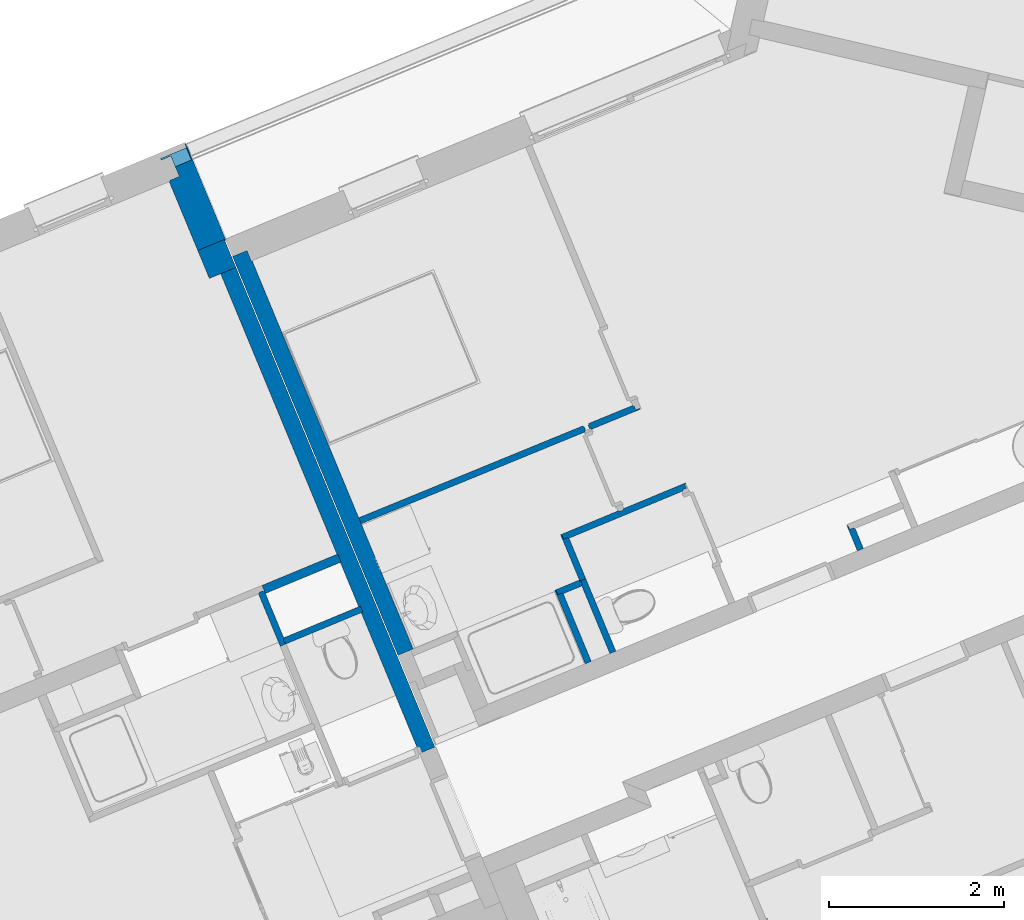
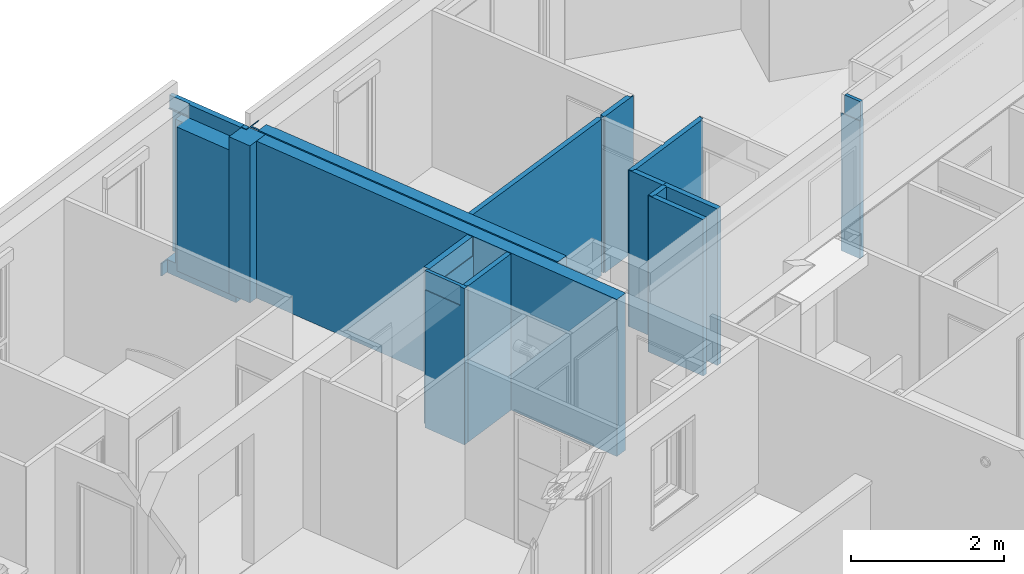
# One storey, part 38 of 91: 14 walls.
"""IFC2X3 building model written with IfcOpenShell, lengths in metres."""

from ifc_helpers import new_model, entity, si_unit, converted_unit, derived_unit, money_unit, direction, frame, origin_with_axes, place, context, subcontext, project, spatial, faceted_brep, material, material_list, type_object, element, save


model = new_model("IFC2X3")

# Units and contexts
model_context = context("Model", 3, precision=1e-05, world=origin_with_axes(), true_north=direction((0.0, 1.0)))
body_context = subcontext(model_context, "Body", "Model", "MODEL_VIEW")
ifc_project = project(units=[si_unit("LENGTHUNIT", "METRE"), si_unit("AREAUNIT", "SQUARE_METRE"), si_unit("VOLUMEUNIT", "CUBIC_METRE"), converted_unit("PLANEANGLEUNIT", "DEGREE", entity("IfcPlaneAngleMeasure", 0.0174532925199), si_unit("PLANEANGLEUNIT", "RADIAN"), dimensions=[0, 0, 0, 0, 0, 0, 0]), si_unit("SOLIDANGLEUNIT", "STERADIAN"), money_unit("EUR"), converted_unit("TIMEUNIT", "Year", entity("IfcTimeMeasure", 31556926.0), si_unit("TIMEUNIT", "SECOND"), dimensions=[0, 0, 1, 0, 0, 0, 0]), si_unit("MASSUNIT", "GRAM", prefix="KILO"), si_unit("THERMODYNAMICTEMPERATUREUNIT", "DEGREE_CELSIUS"), si_unit("LUMINOUSINTENSITYUNIT", "LUMEN"), si_unit("ENERGYUNIT", "JOULE", prefix="MEGA"), derived_unit("THERMALCONDUCTANCEUNIT", [(si_unit("POWERUNIT", "WATT"), 1), (si_unit("LENGTHUNIT", "METRE"), -1), (si_unit("THERMODYNAMICTEMPERATUREUNIT", "KELVIN"), -1)]), derived_unit("SPECIFICHEATCAPACITYUNIT", [(si_unit("ENERGYUNIT", "JOULE"), 1), (si_unit("MASSUNIT", "GRAM", prefix="KILO"), -1), (si_unit("THERMODYNAMICTEMPERATUREUNIT", "KELVIN"), -1)]), derived_unit("MASSDENSITYUNIT", [(si_unit("MASSUNIT", "GRAM", prefix="KILO"), 1), (si_unit("VOLUMEUNIT", "CUBIC_METRE"), -1)])], contexts=[model_context])

# Site, building, storey
site_placement = place(None, origin_with_axes())
site = spatial("IfcSite", under=ifc_project, at=site_placement, Name="Site", CompositionType="ELEMENT")
building_placement = place(site_placement, origin_with_axes())
building = spatial("IfcBuilding", under=site, at=building_placement, Name="Bâtiment", CompositionType="ELEMENT")
storey_placement = place(building_placement, frame((0.0, 0.0, 5.44), z_axis=(0.0, 0.0, 1.0), x_axis=(1.0, 0.0, 0.0)))
storey = spatial("IfcBuildingStorey", under=building, at=storey_placement, Name="R+2", CompositionType="ELEMENT", Elevation=5.44)

# Walls
ifc_material_1 = material(Name="Finition int - Plaque de plâtre")
ifc_material_2 = material(Name="Isolation - Polystyrène extrudé")
ifc_material_3 = material(Name="Bloc ELITHERM")
ifc_material_4 = material(Name="Isolation - Polystyrène expansé")
ifc_material_5 = material(Name="Mortier")
ifc_material_6 = material(Name="Béton cellulaire")
ifc_material_7 = material(Name="Finition ext - Crépis")
ifc_material_list_1 = material_list([ifc_material_1, ifc_material_2, ifc_material_3, ifc_material_4, ifc_material_5, ifc_material_6, ifc_material_7])
wall_type_1 = type_object("IfcWallType", Name="Mur ALKERN + planelle 21 345 x 2720", PredefinedType="USERDEFINED")
wall_1_placement = place(storey_placement, frame((-25.5579248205, -15.1553812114, -0.21), z_axis=(0.0, 0.0, 1.0), x_axis=(-0.383112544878, 0.923701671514, 0.0)))
element("IfcWall", 1, at=wall_1_placement, inside=storey, type_object=wall_type_1, material=ifc_material_list_1, Name="Mue bloc ALKERN isolé", ObjectType="SOLIDWALL", context=body_context, shape_type="Brep", body=[
    faceted_brep([(-0.0149999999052, 0.34499998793, 0.21), (-0.0149999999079, 0.335000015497, 0.21), (-0.0830000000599, 0.335000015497, 0.21), (-0.0830000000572, 0.34499998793, 0.21), (0.855000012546, 0.335000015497, 0.21), (0.855000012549, 0.34499998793, 0.21), (0.855000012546, 0.335000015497, 2.50999999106), (-0.344999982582, 0.335000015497, 2.51), (-0.344999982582, 0.335000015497, 0.209999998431), (-0.344999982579, 0.34499998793, 0.209999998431), (-0.344999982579, 0.34499998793, 2.51), (0.855000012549, 0.34499998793, 2.50999999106)], [[[0, 1, 2, 3]], [[4, 1, 0, 5]], [[1, 4, 6, 7, 8, 2]], [[9, 3, 2, 8]], [[5, 0, 3, 9, 10, 11]], [[4, 5, 11, 6]], [[7, 6, 11, 10]], [[7, 10, 9, 8]]]),
    faceted_brep([(1.11700000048, 0.335000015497, 0.21), (1.11700000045, 0.214999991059, 0.21), (1.13700000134, 0.215000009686, 0.21), (1.13700000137, 0.335000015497, 0.21), (1.11700000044, 0.214999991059, 0.01), (1.1170000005, 0.335000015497, 0.01), (1.13700000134, 0.215000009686, 0.00999999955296), (1.13700000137, 0.335000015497, 0.00999999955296)], [[[0, 1, 2, 3]], [[4, 1, 0, 5]], [[1, 4, 6, 2]], [[7, 3, 2, 6]], [[5, 0, 3, 7]], [[4, 5, 7, 6]]]),
    faceted_brep([(-0.0149999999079, 0.335000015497, 0.21), (-0.0149999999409, 0.214999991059, 0.21), (-0.0830000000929, 0.215000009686, 0.21), (-0.0830000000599, 0.335000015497, 0.21), (0.864999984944, 0.214999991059, 0.21), (0.864999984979, 0.335000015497, 0.21), (0.864999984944, 0.215000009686, 2.50999999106), (-0.344999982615, 0.215000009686, 2.51), (-0.344999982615, 0.215000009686, 0.209999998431), (-0.344999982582, 0.335000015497, 0.209999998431), (-0.344999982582, 0.335000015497, 2.51), (0.864999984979, 0.335000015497, 2.50999999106)], [[[0, 1, 2, 3]], [[4, 1, 0, 5]], [[1, 4, 6, 7, 8, 2]], [[9, 3, 2, 8]], [[5, 0, 3, 9, 10, 11]], [[4, 5, 11, 6]], [[7, 6, 11, 10]], [[7, 10, 9, 8]]]),
    faceted_brep([(-0.0149999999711, 0.105000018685, 0.21), (-0.0149999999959, 0.015, 0.21), (-0.0149999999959, 0.015, 2.50999999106), (-0.0149999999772, 0.0829999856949, 2.50999999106), (-0.0149999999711, 0.105000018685, 2.50999999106), (-0.0149999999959, 0.015, 0.00999999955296), (-0.0149999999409, 0.214999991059, 0.21), (-0.0149999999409, 0.214999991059, 0.00999999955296), (-0.0149999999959, 0.015, 0.0), (1.11700000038, 0.015, 0.0), (1.11700000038, 0.015, 0.01), (1.13700000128, 0.015, 0.00999999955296), (1.13700000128, 0.015, 0.21), (0.985000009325, 0.015, 0.21), (0.985000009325, 0.015, 2.50999999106), (0.985000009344, 0.0829999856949, 2.50999999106), (0.985000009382, 0.214999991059, 2.50999999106), (-0.344999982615, 0.214999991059, 2.50999999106), (-0.344999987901, 0.105000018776, 2.50999999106), (-0.335000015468, 0.105000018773, 2.50999999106), (-0.21499999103, 0.10500001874, 2.50999999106), (-0.0629999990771, 0.105000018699, 0.21), (-0.21499999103, 0.10500001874, 0.21), (-0.0830000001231, 0.105000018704, 0.21), (-0.0629999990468, 0.214999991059, 0.21), (-0.0830000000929, 0.214999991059, 0.21), (-0.344999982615, 0.214999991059, 0.209999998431), (0.985000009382, 0.214999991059, 0.21), (1.13700000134, 0.214999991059, 0.21), (1.13700000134, 0.214999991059, 0.00999999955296), (1.11700000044, 0.214999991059, 0.01), (1.11700000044, 0.214999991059, 0.0), (-0.0149999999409, 0.214999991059, 0.0), (-0.344999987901, 0.105000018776, 0.21), (-0.335000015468, 0.105000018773, 0.21)], [[[0, 1, 2, 3, 4]], [[5, 1, 0, 6, 7]], [[1, 5, 8, 9, 10, 11, 12, 13, 14, 2]], [[3, 2, 14, 15]], [[4, 3, 15, 16, 17, 18, 19, 20]], [[21, 0, 4, 20, 22, 23]], [[0, 21, 24, 6]], [[6, 24, 25, 26, 17, 16, 27, 28, 29, 30, 31, 32, 7]], [[5, 7, 32, 8]], [[8, 32, 31, 9]], [[10, 9, 31, 30]], [[29, 11, 10, 30]], [[28, 12, 11, 29]], [[12, 28, 27, 13]], [[15, 14, 13, 27, 16]], [[33, 18, 17, 26]], [[34, 19, 18, 33]], [[22, 20, 19, 34]], [[25, 23, 22, 34, 33, 26]], [[24, 21, 23, 25]]]),
    faceted_brep([(0.0, 0.083000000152, 2.71999999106), (0.0, 0.0630000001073, 2.71999999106), (0.864999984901, 0.0630000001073, 2.72), (0.864999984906, 0.083000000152, 2.72), (0.0, 0.0630000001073, 2.51999999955), (0.0, 0.083000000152, 2.51999999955), (0.864999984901, 0.0630000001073, 2.51999999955), (0.864999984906, 0.083000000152, 2.51999999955)], [[[0, 1, 2, 3]], [[4, 1, 0, 5]], [[1, 4, 6, 2]], [[3, 2, 6, 7]], [[5, 0, 3, 7]], [[4, 5, 7, 6]]]),
    faceted_brep([(-0.344999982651, 0.083, 2.52), (-0.34499998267, 0.015, 2.52), (1.19999999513, 0.015, 2.52), (1.19999999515, 0.083, 2.52), (-0.34499998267, 0.015, 2.51), (-0.344999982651, 0.083, 2.51), (1.19999999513, 0.015, 2.51), (1.19999999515, 0.083, 2.51)], [[[0, 1, 2, 3]], [[4, 1, 0, 5]], [[1, 4, 6, 2]], [[3, 2, 6, 7]], [[5, 0, 3, 7]], [[4, 5, 7, 6]]]),
    faceted_brep([(-0.344999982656, 0.0629999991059, 2.72000000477), (-0.34499998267, 0.015, 2.72000000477), (1.19999999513, 0.015, 2.72000000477), (1.19999999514, 0.0629999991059, 2.72000000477), (-0.34499998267, 0.015, 2.51999999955), (-0.344999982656, 0.0629999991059, 2.51999999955), (1.19999999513, 0.015, 2.51999999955), (1.19999999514, 0.0629999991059, 2.51999999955)], [[[0, 1, 2, 3]], [[4, 1, 0, 5]], [[1, 4, 6, 2]], [[3, 2, 6, 7]], [[5, 0, 3, 7]], [[4, 5, 7, 6]]]),
    faceted_brep([(1.19999999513, 0.0149999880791, 2.72000000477), (0.0, 0.0149999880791, 2.71999999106), (0.0, 0.0, 2.71999999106), (1.19999999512, 0.0, 2.72000000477), (0.0, 0.0149999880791, 0.21), (1.20000000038, 0.0149999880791, 2.50999999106), (1.1850000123, 0.0149999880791, 2.50999999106), (1.18500000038, 0.0149999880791, 0.21), (1.13700000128, 0.0149999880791, 0.21), (1.13700000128, 0.0149999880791, 0.00999999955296), (1.11700000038, 0.0149999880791, 0.01), (1.11700000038, 0.0149999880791, 0.0), (-0.0149999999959, 0.0149999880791, 0.0), (-0.0149999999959, 0.0149999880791, 0.21), (0.0, 0.0, 0.21), (-0.015, 0.0, 0.21), (-0.015, 0.0, 0.0), (1.11700000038, 0.0, 0.0), (1.11700000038, 0.0, 0.01), (1.13700000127, 0.0, 0.00999999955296), (1.13700000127, 0.0, 0.21), (1.18500000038, 0.0, 0.21), (1.1850000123, 0.0, 2.50999999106), (1.20000000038, 0.0, 2.50999999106)], [[[0, 1, 2, 3]], [[4, 1, 0, 5, 6, 7, 8, 9, 10, 11, 12, 13]], [[14, 2, 1, 4]], [[3, 2, 14, 15, 16, 17, 18, 19, 20, 21, 22, 23]], [[3, 23, 5, 0]], [[5, 23, 22, 6]], [[22, 21, 7, 6]], [[7, 21, 20, 8]], [[8, 20, 19, 9]], [[10, 9, 19, 18]], [[10, 18, 17, 11]], [[17, 16, 12, 11]], [[16, 15, 13, 12]], [[4, 13, 15, 14]]]),
])
ifc_material_8 = material(Name="Isolation - Laine de roche")
ifc_material_list_2 = material_list([ifc_material_1, ifc_material_8, ifc_material_1])
wall_type_2 = type_object("IfcWallType", Name="3 - Cloison 72mm Placostil 74", PredefinedType="USERDEFINED")
wall_2_placement = place(storey_placement, frame((-21.6551757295, -18.5120342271, 0.0), z_axis=(0.0, 0.0, 1.0), x_axis=(0.383112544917, -0.923701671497, 0.0)))
element("IfcWall", 2, at=wall_2_placement, inside=storey, type_object=wall_type_2, material=ifc_material_list_2, Name="Cloison Placostil 72/48", ObjectType="PARTITIONING", context=body_context, shape_type="Brep", body=[
    faceted_brep([(0.0740000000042, -0.013, 2.5), (0.573999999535, -0.013, 2.5), (0.573999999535, 0.0, 2.5), (0.074, 0.0, 2.5), (0.0740000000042, -0.013, 0.0), (0.573999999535, -0.013, 0.0), (0.573999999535, 0.0, 0.0), (0.074, 0.0, 0.0)], [[[0, 1, 2, 3]], [[4, 5, 1, 0]], [[2, 1, 5, 6]], [[3, 2, 6, 7]], [[4, 0, 3, 7]], [[7, 6, 5, 4]]]),
    faceted_brep([(0.0610000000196, -0.061, 2.5), (0.573999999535, -0.061, 2.5), (0.573999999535, -0.013, 2.5), (0.0610000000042, -0.013, 2.5), (0.0610000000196, -0.061, 0.0), (0.573999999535, -0.061, 0.0), (0.573999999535, -0.013, 0.0), (0.0610000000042, -0.013, 0.0)], [[[0, 1, 2, 3]], [[4, 5, 1, 0]], [[2, 1, 5, 6]], [[3, 2, 6, 7]], [[4, 0, 3, 7]], [[7, 6, 5, 4]]]),
    faceted_brep([(0.573999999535, -0.074, 2.5), (0.573999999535, -0.061, 2.5), (0.0130000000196, -0.061, 2.5), (0.0130000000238, -0.074, 2.5), (0.573999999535, -0.074, 0.0), (0.573999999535, -0.061, 0.0), (0.0130000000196, -0.061, 0.0), (0.0130000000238, -0.074, 0.0)], [[[0, 1, 2, 3]], [[1, 0, 4, 5]], [[1, 5, 6, 2]], [[7, 3, 2, 6]], [[4, 0, 3, 7]], [[5, 4, 7, 6]]]),
])
wall_3_placement = place(storey_placement, frame((-21.6551757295, -18.5120342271, 0.0), z_axis=(0.0, 0.0, 1.0), x_axis=(0.923701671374, 0.383112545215, 0.0)))
element("IfcWall", 3, at=wall_3_placement, inside=storey, type_object=wall_type_2, material=ifc_material_list_2, Name="Cloison Placostil 72/48", ObjectType="PARTITIONING", context=body_context, shape_type="Brep", body=[
    faceted_brep([(1.47399999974, -0.013, 2.5), (1.47399999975, 0.0, 2.5), (0.697460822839, 0.0, 2.5), (0.697460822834, -0.013, 2.5), (1.47399999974, -0.013, 0.0), (1.47399999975, 0.0, 0.0), (0.697460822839, 0.0, 0.0), (0.697460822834, -0.013, 0.0)], [[[0, 1, 2, 3]], [[1, 0, 4, 5]], [[1, 5, 6, 2]], [[7, 3, 2, 6]], [[4, 0, 3, 7]], [[5, 4, 7, 6]]]),
    faceted_brep([(0.649460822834, -0.013, 2.5), (0.649460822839, 0.0, 2.5), (-0.074, 0.0, 2.5), (-0.0740000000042, -0.013, 2.5), (0.649460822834, -0.013, 0.0), (0.649460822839, 0.0, 0.0), (-0.074, 0.0, 0.0), (-0.0740000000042, -0.013, 0.0)], [[[0, 1, 2, 3]], [[1, 0, 4, 5]], [[1, 5, 6, 2]], [[7, 3, 2, 6]], [[4, 0, 3, 7]], [[5, 4, 7, 6]]]),
    faceted_brep([(1.46099999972, -0.061, 2.5), (1.46099999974, -0.013, 2.5), (-0.0610000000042, -0.013, 2.5), (-0.0610000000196, -0.061, 2.5), (1.46099999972, -0.061, 0.0), (1.46099999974, -0.013, 0.0), (-0.0610000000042, -0.013, 0.0), (-0.0610000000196, -0.061, 0.0)], [[[0, 1, 2, 3]], [[1, 0, 4, 5]], [[1, 5, 6, 2]], [[7, 3, 2, 6]], [[4, 0, 3, 7]], [[5, 4, 7, 6]]]),
    faceted_brep([(1.41299999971, -0.074, 2.5), (1.41299999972, -0.061, 2.5), (-0.0130000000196, -0.061, 2.5), (-0.0130000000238, -0.074, 2.5), (1.41299999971, -0.074, 0.0), (1.41299999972, -0.061, 0.0), (-0.0130000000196, -0.061, 0.0), (-0.0130000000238, -0.074, 0.0)], [[[0, 1, 2, 3]], [[1, 0, 4, 5]], [[1, 5, 6, 2]], [[7, 3, 2, 6]], [[4, 0, 3, 7]], [[5, 4, 7, 6]]]),
])
wall_4_placement = place(storey_placement, frame((-20.8008531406, -17.1002798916, 0.0), z_axis=(0.0, 0.0, 1.0), x_axis=(-0.925270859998, -0.379307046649, 0.0)))
element("IfcWall", 4, at=wall_4_placement, inside=storey, type_object=wall_type_2, material=ifc_material_list_2, Name="Cloison Placostil 72/48", ObjectType="PARTITIONING", context=body_context, shape_type="Brep", body=[
    faceted_brep([(0.619597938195, -0.013, 2.5), (0.61954442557, 0.0, 2.5), (0.013000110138, 0.0, 2.5), (0.0130536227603, -0.013, 2.5), (0.619597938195, -0.013, 0.0), (0.61954442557, 0.0, 0.0), (0.013000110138, 0.0, 0.0), (0.0130536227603, -0.013, 0.0)], [[[0, 1, 2, 3]], [[1, 0, 4, 5]], [[1, 5, 6, 2]], [[7, 3, 2, 6]], [[4, 0, 3, 7]], [[5, 4, 7, 6]]]),
    faceted_brep([(0.693598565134, -0.013, 2.5), (3.46402934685, -0.013, 2.5), (3.46402934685, 0.0, 2.5), (0.69354505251, 0.0, 2.5), (0.693598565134, -0.013, 0.0), (3.46402934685, -0.013, 0.0), (3.46402934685, 0.0, 0.0), (0.69354505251, 0.0, 0.0)], [[[0, 1, 2, 3]], [[4, 5, 1, 0]], [[2, 1, 5, 6]], [[3, 2, 6, 7]], [[4, 0, 3, 7]], [[7, 6, 5, 4]]]),
    faceted_brep([(0.632795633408, -0.061, 2.5), (0.632598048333, -0.013, 2.5), (0.0610540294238, -0.013, 2.5), (0.0612516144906, -0.061, 2.5), (0.632795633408, -0.061, 0.0), (0.632598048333, -0.013, 0.0), (0.0610540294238, -0.013, 0.0), (0.0612516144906, -0.061, 0.0)], [[[0, 1, 2, 3]], [[1, 0, 4, 5]], [[1, 5, 6, 2]], [[7, 3, 2, 6]], [[4, 0, 3, 7]], [[5, 4, 7, 6]]]),
    faceted_brep([(0.680796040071, -0.061, 2.5), (3.46402934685, -0.061, 2.5), (3.46402934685, -0.013, 2.5), (0.680598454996, -0.013, 2.5), (0.680796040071, -0.061, 0.0), (3.46402934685, -0.061, 0.0), (3.46402934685, -0.013, 0.0), (0.680598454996, -0.013, 0.0)], [[[0, 1, 2, 3]], [[4, 5, 1, 0]], [[2, 1, 5, 6]], [[3, 2, 6, 7]], [[4, 0, 3, 7]], [[7, 6, 5, 4]]]),
    faceted_brep([(0.619849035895, -0.074, 2.5), (0.61979552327, -0.061, 2.5), (0.0742517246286, -0.061, 2.5), (0.0743052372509, -0.074, 2.5), (0.619849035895, -0.074, 0.0), (0.61979552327, -0.061, 0.0), (0.0742517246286, -0.061, 0.0), (0.0743052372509, -0.074, 0.0)], [[[0, 1, 2, 3]], [[1, 0, 4, 5]], [[1, 5, 6, 2]], [[7, 3, 2, 6]], [[4, 0, 3, 7]], [[5, 4, 7, 6]]]),
    faceted_brep([(0.693849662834, -0.074, 2.5), (3.46402934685, -0.074, 2.5), (3.46402934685, -0.061, 2.5), (0.69379615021, -0.061, 2.5), (0.693849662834, -0.074, 0.0), (3.46402934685, -0.074, 0.0), (3.46402934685, -0.061, 0.0), (0.69379615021, -0.061, 0.0)], [[[0, 1, 2, 3]], [[4, 5, 1, 0]], [[2, 1, 5, 6]], [[3, 2, 6, 7]], [[4, 0, 3, 7]], [[7, 6, 5, 4]]]),
])
wall_5_placement = place(storey_placement, frame((-18.4490334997, -18.4272521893, 0.0), z_axis=(0.0, 0.0, 1.0), x_axis=(0.383112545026, -0.923701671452, 0.0)))
element("IfcWall", 5, at=wall_5_placement, inside=storey, type_object=wall_type_2, material=ifc_material_list_2, Name="Cloison Placostil 72/48", ObjectType="PARTITIONING", context=body_context, shape_type="Brep", body=[
    faceted_brep([(0.074, 0.074, 2.2), (0.324000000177, 0.074, 2.2), (0.324, 0.074, 0.0), (0.074, 0.074, 0.0), (0.324000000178, 0.061, 2.2), (0.074, 0.061, 2.2), (0.324, 0.061, 0.0), (0.074, 0.061, 0.0)], [[[0, 1, 2, 3]], [[4, 1, 0, 5]], [[1, 4, 6, 2]], [[3, 2, 6, 7]], [[5, 0, 3, 7]], [[4, 5, 7, 6]]]),
    faceted_brep([(0.061, 0.061, 0.0), (0.324, 0.061, 0.0), (0.324, 0.013, 0.0), (0.061, 0.013, 0.0), (0.061, 0.061, 2.5), (0.324, 0.061, 2.5), (0.324, 0.013, 2.5), (0.061, 0.013, 2.5)], [[[0, 1, 2, 3]], [[4, 5, 1, 0]], [[2, 1, 5, 6]], [[3, 2, 6, 7]], [[4, 0, 3, 7]], [[7, 6, 5, 4]]]),
    faceted_brep([(0.013, 0.013, 2.2), (0.324000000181, 0.013, 2.2), (0.324, 0.013, 0.0), (0.013, 0.013, 0.0), (0.324000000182, 0.0, 2.2), (0.013, 0.0, 2.2), (0.324, 0.0, 0.0), (0.013, 0.0, 0.0)], [[[0, 1, 2, 3]], [[4, 1, 0, 5]], [[1, 4, 6, 2]], [[3, 2, 6, 7]], [[5, 0, 3, 7]], [[4, 5, 7, 6]]]),
])
wall_type_3 = type_object("IfcWallType", Name="3 - Cloison Gaine Technique 72mm 74", PredefinedType="USERDEFINED")
wall_6_placement = place(storey_placement, frame((-24.9331172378, -19.8175512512, 0.0), z_axis=(0.0, 0.0, 1.0), x_axis=(-0.383112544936, 0.92370167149, 0.0)))
element("IfcWall", 6, at=wall_6_placement, inside=storey, type_object=wall_type_3, material=ifc_material_list_2, Name="Cloison Placostil 72/48", ObjectType="PARTITIONING", context=body_context, shape_type="Brep", body=[
    faceted_brep([(0.649999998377, -0.013, 2.2), (0.0740000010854, -0.013, 2.2), (0.0740000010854, -0.013, 2.5), (0.0, -0.013, 2.5), (0.0, -0.013, 0.0), (0.650000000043, -0.013, 0.0), (0.649999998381, 0.0, 2.2), (0.0740000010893, 0.0, 2.2), (0.0740000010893, 0.0, 2.5), (0.0, 0.0, 2.5), (0.0, 0.0, 0.0), (0.650000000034, 0.0, 0.0)], [[[0, 1, 2, 3, 4, 5]], [[1, 0, 6, 7]], [[8, 2, 1, 7]], [[2, 8, 9, 3]], [[4, 3, 9, 10]], [[11, 5, 4, 10]], [[6, 0, 5, 11]], [[7, 6, 11, 10, 9, 8]]]),
    faceted_brep([(0.663000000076, -0.061, 2.5), (0.663000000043, -0.013, 2.5), (0.0, -0.013, 2.5), (0.0, -0.061, 2.5), (0.663000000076, -0.061, 0.0), (0.663000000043, -0.013, 0.0), (0.0, -0.013, 0.0), (0.0, -0.061, 0.0)], [[[0, 1, 2, 3]], [[1, 0, 4, 5]], [[1, 5, 6, 2]], [[7, 3, 2, 6]], [[4, 0, 3, 7]], [[5, 4, 7, 6]]]),
    faceted_brep([(0.0130000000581, -0.074, 2.5), (0.0130000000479, -0.061, 2.5), (0.0, -0.061, 2.5), (0.0, -0.074, 2.5), (0.0130000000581, -0.074, 0.0), (0.0130000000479, -0.061, 0.0), (0.0, -0.061, 0.0), (0.0, -0.074, 0.0)], [[[0, 1, 2, 3]], [[1, 0, 4, 5]], [[1, 5, 6, 2]], [[7, 3, 2, 6]], [[4, 0, 3, 7]], [[5, 4, 7, 6]]]),
    faceted_brep([(0.649999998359, -0.074, 2.2), (0.0740000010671, -0.074, 2.2), (0.0740000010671, -0.074, 2.5), (0.0610000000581, -0.074, 2.5), (0.0610000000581, -0.074, 0.0), (0.650000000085, -0.074, 0.0), (0.649999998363, -0.061, 2.2), (0.074000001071, -0.061, 2.2), (0.074000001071, -0.061, 2.5), (0.0610000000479, -0.061, 2.5), (0.0610000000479, -0.061, 0.0), (0.650000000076, -0.061, 0.0)], [[[0, 1, 2, 3, 4, 5]], [[1, 0, 6, 7]], [[8, 2, 1, 7]], [[2, 8, 9, 3]], [[4, 3, 9, 10]], [[11, 5, 4, 10]], [[6, 0, 5, 11]], [[7, 6, 11, 10, 9, 8]]]),
])
wall_7_placement = place(storey_placement, frame((-21.7899938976, -19.1752900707, 0.0), z_axis=(0.0, 0.0, 1.0), x_axis=(0.923701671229, 0.383112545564, 0.0)))
element("IfcWall", 7, at=wall_7_placement, inside=storey, type_object=wall_type_3, material=ifc_material_list_2, Name="Cloison Placostil 72/48", ObjectType="PARTITIONING", context=body_context, shape_type="Brep", body=[
    faceted_brep([(0.304633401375, -0.013, 2.5), (0.304633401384, 0.0, 2.5), (0.0, 0.0, 2.5), (0.0, -0.013, 2.5), (0.304633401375, -0.013, 0.0), (0.304633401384, 0.0, 0.0), (0.0, 0.0, 0.0), (0.0, -0.013, 0.0)], [[[0, 1, 2, 3]], [[1, 0, 4, 5]], [[1, 5, 6, 2]], [[7, 3, 2, 6]], [[4, 0, 3, 7]], [[5, 4, 7, 6]]]),
    faceted_brep([(0.317633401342, -0.061, 2.5), (0.317633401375, -0.013, 2.5), (0.013, -0.013, 2.5), (0.013, -0.061, 2.5), (0.317633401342, -0.061, 0.0), (0.317633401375, -0.013, 0.0), (0.013, -0.013, 0.0), (0.013, -0.061, 0.0)], [[[0, 1, 2, 3]], [[1, 0, 4, 5]], [[1, 5, 6, 2]], [[7, 3, 2, 6]], [[4, 0, 3, 7]], [[5, 4, 7, 6]]]),
    faceted_brep([(0.304633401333, -0.074, 2.5), (0.304633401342, -0.061, 2.5), (0.061, -0.061, 2.5), (0.061, -0.074, 2.5), (0.304633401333, -0.074, 0.0), (0.304633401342, -0.061, 0.0), (0.061, -0.061, 0.0), (0.061, -0.074, 0.0)], [[[0, 1, 2, 3]], [[1, 0, 4, 5]], [[1, 5, 6, 2]], [[7, 3, 2, 6]], [[4, 0, 3, 7]], [[5, 4, 7, 6]]]),
])
wall_8_placement = place(storey_placement, frame((-24.0155970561, -19.3568900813, 0.0), z_axis=(0.0, 0.0, 1.0), x_axis=(-0.923701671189, -0.383112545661, 0.0)))
element("IfcWall", 8, at=wall_8_placement, inside=storey, type_object=wall_type_3, material=ifc_material_list_2, Name="Cloison Placostil 72/48", ObjectType="PARTITIONING", context=body_context, shape_type="Brep", body=[
    faceted_brep([(0.949999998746, 0.074, 0.0), (0.949999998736, 0.061, 0.0), (0.0, 0.061, 0.0), (0.0, 0.074, 0.0), (0.949999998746, 0.074, 2.5), (0.949999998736, 0.061, 2.5), (0.0, 0.061, 2.5), (0.0, 0.074, 2.5)], [[[0, 1, 2, 3]], [[1, 0, 4, 5]], [[1, 5, 6, 2]], [[7, 3, 2, 6]], [[4, 0, 3, 7]], [[5, 4, 7, 6]]]),
    faceted_brep([(0.962999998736, 0.061, 0.0), (0.962999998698, 0.013, 0.0), (0.0, 0.013, 0.0), (0.0, 0.061, 0.0), (0.962999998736, 0.061, 2.5), (0.962999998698, 0.013, 2.5), (0.0, 0.013, 2.5), (0.0, 0.061, 2.5)], [[[0, 1, 2, 3]], [[1, 0, 4, 5]], [[1, 5, 6, 2]], [[7, 3, 2, 6]], [[4, 0, 3, 7]], [[5, 4, 7, 6]]]),
    faceted_brep([(0.949999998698, 0.013, 0.0), (0.949999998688, 0.0, 0.0), (0.0, 0.0, 0.0), (0.0, 0.013, 0.0), (0.949999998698, 0.013, 2.5), (0.949999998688, 0.0, 2.5), (0.0, 0.0, 2.5), (0.0, 0.013, 2.5)], [[[0, 1, 2, 3]], [[1, 0, 4, 5]], [[1, 5, 6, 2]], [[7, 3, 2, 6]], [[4, 0, 3, 7]], [[5, 4, 7, 6]]]),
])
wall_9_placement = place(storey_placement, frame((-21.7899938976, -19.1752900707, 0.0), z_axis=(0.0, 0.0, 1.0), x_axis=(0.383112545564, -0.923701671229, 0.0)))
element("IfcWall", 9, at=wall_9_placement, inside=storey, type_object=wall_type_3, material=ifc_material_list_2, Name="Cloison Placostil 72/48", ObjectType="PARTITIONING", context=body_context, shape_type="Brep", body=[
    faceted_brep([(0.074, 0.074, 0.0), (0.912999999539, 0.074, 0.0), (0.912999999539, 0.061, 0.0), (0.074, 0.061, 0.0), (0.074, 0.074, 2.5), (0.912999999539, 0.074, 2.5), (0.912999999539, 0.061, 2.5), (0.074, 0.061, 2.5)], [[[0, 1, 2, 3]], [[4, 5, 1, 0]], [[2, 1, 5, 6]], [[3, 2, 6, 7]], [[4, 0, 3, 7]], [[7, 6, 5, 4]]]),
    faceted_brep([(0.061, 0.061, 0.0), (0.912999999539, 0.061, 0.0), (0.912999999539, 0.013, 0.0), (0.061, 0.013, 0.0), (0.061, 0.061, 2.5), (0.912999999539, 0.061, 2.5), (0.912999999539, 0.013, 2.5), (0.061, 0.013, 2.5)], [[[0, 1, 2, 3]], [[4, 5, 1, 0]], [[2, 1, 5, 6]], [[3, 2, 6, 7]], [[4, 0, 3, 7]], [[7, 6, 5, 4]]]),
    faceted_brep([(0.013, 0.013, 0.0), (0.912999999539, 0.013, 0.0), (0.912999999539, 0.0, 0.0), (0.013, 0.0, 0.0), (0.013, 0.013, 2.5), (0.912999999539, 0.013, 2.5), (0.912999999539, 0.0, 2.5), (0.013, 0.0, 2.5)], [[[0, 1, 2, 3]], [[4, 5, 1, 0]], [[2, 1, 5, 6]], [[3, 2, 6, 7]], [[4, 0, 3, 7]], [[7, 6, 5, 4]]]),
])
wall_10_placement = place(storey_placement, frame((-21.4352691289, -19.0422389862, 0.0), z_axis=(0.0, 0.0, 1.0), x_axis=(0.383112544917, -0.923701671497, 0.0)))
element("IfcWall", 10, at=wall_10_placement, inside=storey, type_object=wall_type_3, material=ifc_material_list_2, Name="Cloison Placostil 72/48", ObjectType="PARTITIONING", context=body_context, shape_type="Brep", body=[
    faceted_brep([(0.0, -0.013, 2.5), (0.900000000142, -0.013, 2.5), (0.900000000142, 0.0, 2.5), (0.0, 0.0, 2.5), (0.0, -0.013, 0.0), (0.900000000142, -0.013, 0.0), (0.900000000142, 0.0, 0.0), (0.0, 0.0, 0.0)], [[[0, 1, 2, 3]], [[4, 5, 1, 0]], [[2, 1, 5, 6]], [[3, 2, 6, 7]], [[4, 0, 3, 7]], [[7, 6, 5, 4]]]),
    faceted_brep([(0.0, -0.061, 2.5), (0.900000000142, -0.061, 2.5), (0.900000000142, -0.013, 2.5), (0.0, -0.013, 2.5), (0.0, -0.061, 0.0), (0.900000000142, -0.061, 0.0), (0.900000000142, -0.013, 0.0), (0.0, -0.013, 0.0)], [[[0, 1, 2, 3]], [[4, 5, 1, 0]], [[2, 1, 5, 6]], [[3, 2, 6, 7]], [[4, 0, 3, 7]], [[7, 6, 5, 4]]]),
    faceted_brep([(0.0, -0.074, 2.5), (0.900000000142, -0.074, 2.5), (0.900000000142, -0.061, 2.5), (0.0, -0.061, 2.5), (0.0, -0.074, 0.0), (0.900000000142, -0.074, 0.0), (0.900000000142, -0.061, 0.0), (0.0, -0.061, 0.0)], [[[0, 1, 2, 3]], [[4, 5, 1, 0]], [[2, 1, 5, 6]], [[3, 2, 6, 7]], [[4, 0, 3, 7]], [[7, 6, 5, 4]]]),
])
ifc_material_9 = material(Name="Finition int - Enduit plâtre")
ifc_material_10 = material(Name="Béton")
ifc_material_list_3 = material_list([ifc_material_9, ifc_material_10])
wall_type_4 = type_object("IfcWallType", Name="2 - Murs Béton 18 + Enduit 1 Face 190", PredefinedType="USERDEFINED")
wall_11_placement = place(storey_placement, frame((-25.5625433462, -15.1572967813, 0.0), z_axis=(0.0, 0.0, 1.0), x_axis=(0.383112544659, -0.923701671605, 0.0)))
element("IfcWall", 11, at=wall_11_placement, inside=storey, type_object=wall_type_4, material=ifc_material_list_3, Name="M_Ext-008", ObjectType="SOLIDWALL", context=body_context, shape_type="Brep", body=[
    faceted_brep([(0.0919576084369, 0.18, 2.52), (0.0919576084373, 0.19, 2.52), (0.0830000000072, 0.19, 2.52), (0.0830000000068, 0.18, 2.52), (0.0919576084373, 0.19, 2.51), (0.0919576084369, 0.18, 2.51), (0.0830000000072, 0.19, 2.51), (0.0830000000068, 0.18, 2.51)], [[[0, 1, 2, 3]], [[4, 1, 0, 5]], [[1, 4, 6, 2]], [[7, 3, 2, 6]], [[5, 0, 3, 7]], [[4, 5, 7, 6]]]),
    faceted_brep([(0.344999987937, 0.19, 2.51), (5.1567381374, 0.19, 2.51), (5.1567381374, 0.19, 0.0), (0.344999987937, 0.19, 0.0), (5.1567381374, 0.18, 2.51), (0.344999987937, 0.18, 2.51), (5.1567381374, 0.18, 0.0), (0.344999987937, 0.18, 0.0)], [[[0, 1, 2, 3]], [[4, 1, 0, 5]], [[1, 4, 6, 2]], [[6, 7, 3, 2]], [[5, 0, 3, 7]], [[4, 5, 7, 6]]]),
    faceted_brep([(0.214999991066, 0.18, 2.51), (5.1567381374, 0.18, 2.51), (5.1567381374, 0.18, 0.0), (0.214999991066, 0.18, 0.0), (5.1567381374, 0.0249891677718, 2.51), (0.21499999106, 0.0249891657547, 2.51), (5.1567381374, 0.0249891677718, 2.52), (5.1567381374, 0.0, 2.52), (5.1567381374, 0.0, 0.0), (0.214999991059, 0.0, 0.0), (0.214999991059, 0.0, 2.50999999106), (0.0919576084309, 0.0249891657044, 2.52), (0.0919576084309, 0.0249891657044, 2.51), (0.0919576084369, 0.18, 2.52), (0.0830000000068, 0.18, 2.52), (0.083, 0.0, 2.52), (0.083, 0.0, 2.51), (0.0830000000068, 0.18, 2.51), (0.0919576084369, 0.18, 2.51)], [[[0, 1, 2, 3]], [[4, 1, 0, 5]], [[4, 6, 7, 8, 2, 1]], [[8, 9, 3, 2]], [[5, 0, 3, 9, 10]], [[11, 6, 4, 5, 12]], [[11, 13, 14, 15, 7, 6]], [[7, 15, 16, 10, 9, 8]], [[12, 5, 10, 16, 17, 18]], [[18, 13, 11, 12]], [[13, 18, 17, 14]], [[16, 15, 14, 17]]]),
])
ifc_material_list_4 = material_list([ifc_material_10, ifc_material_9])
wall_12_placement = place(storey_placement, frame((-25.4396065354, -15.4798049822, 0.0), z_axis=(0.0, 0.0, 1.0), x_axis=(0.38311254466, -0.923701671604, 0.0)))
element("IfcWall", 12, at=wall_12_placement, inside=storey, type_object=wall_type_4, material=ifc_material_list_4, Name="M_Ext-008", ObjectType="SOLIDWALL", context=body_context, shape_type="Brep", body=[
    faceted_brep([(0.0, -1.27143167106e-08, 2.51), (5.9448597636, 3.24792281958e-08, 2.51), (5.9448597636, 0.0, 0.0), (0.0, 0.0, 0.0), (5.9448597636, -0.18, 2.51), (0.0, -0.18, 2.51), (5.9448597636, -0.18, 0.0), (0.0, -0.18, 0.0)], [[[0, 1, 2, 3]], [[4, 1, 0, 5]], [[1, 4, 6, 2]], [[3, 2, 6, 7]], [[5, 0, 3, 7]], [[4, 5, 7, 6]]]),
    faceted_brep([(0.0, -0.18, 2.51), (5.9448597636, -0.18, 2.51), (5.9448597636, -0.18, 0.0), (3.57682588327, -0.18, 0.0), (3.57682588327, -0.18, 2.5), (3.47682588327, -0.18, 2.5), (3.47682588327, -0.18, 0.0), (0.0, -0.18, 0.0), (5.9448597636, -0.19, 2.51), (0.0, -0.19, 2.51), (5.9448597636, -0.19, 0.0), (3.57682588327, -0.19, 0.0), (3.57682588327, -0.19, 2.5), (3.47682588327, -0.19, 2.5), (3.47682588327, -0.19, 0.0), (0.0, -0.19, 0.0)], [[[0, 1, 2, 3, 4, 5, 6, 7]], [[8, 1, 0, 9]], [[1, 8, 10, 2]], [[10, 11, 3, 2]], [[12, 4, 3, 11]], [[4, 12, 13, 5]], [[14, 6, 5, 13]], [[7, 6, 14, 15]], [[9, 0, 7, 15]], [[8, 9, 15, 14, 13, 12, 11, 10]]]),
])
ifc_material_list_5 = material_list([ifc_material_1, ifc_material_1, ifc_material_8, ifc_material_1, ifc_material_1])
wall_type_5 = type_object("IfcWallType", Name="3 - Cloison Gaine Technique 98mm 100", PredefinedType="USERDEFINED")
wall_13_placement = place(storey_placement, frame((-25.1421367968, -19.1204409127, 0.0), z_axis=(0.0, 0.0, 1.0), x_axis=(0.923701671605, 0.383112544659, 0.0)))
element("IfcWall", 13, at=wall_13_placement, inside=storey, type_object=wall_type_5, material=ifc_material_list_5, Name="Cloison 98 isolée", ObjectType="PARTITIONING", context=body_context, shape_type="Brep", body=[
    faceted_brep([(0.940000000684, -0.013, 2.5), (0.940000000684, 0.0, 2.5), (0.0, 0.0, 2.5), (0.0, -0.013, 2.5), (0.940000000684, -0.013, 0.0), (0.940000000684, 0.0, 0.0), (0.0, 0.0, 0.0), (0.0, -0.013, 0.0)], [[[0, 1, 2, 3]], [[1, 0, 4, 5]], [[1, 5, 6, 2]], [[7, 3, 2, 6]], [[4, 0, 3, 7]], [[5, 4, 7, 6]]]),
    faceted_brep([(0.940000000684, -0.026, 2.5), (0.940000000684, -0.013, 2.5), (0.0, -0.013, 2.5), (0.0, -0.026, 2.5), (0.940000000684, -0.026, 0.0), (0.940000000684, -0.013, 0.0), (0.0, -0.013, 0.0), (0.0, -0.026, 0.0)], [[[0, 1, 2, 3]], [[1, 0, 4, 5]], [[1, 5, 6, 2]], [[7, 3, 2, 6]], [[4, 0, 3, 7]], [[5, 4, 7, 6]]]),
    faceted_brep([(0.940000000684, -0.074, 2.5), (0.940000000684, -0.026, 2.5), (0.0, -0.026, 2.5), (0.0, -0.074, 2.5), (0.940000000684, -0.074, 0.0), (0.940000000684, -0.026, 0.0), (0.0, -0.026, 0.0), (0.0, -0.074, 0.0)], [[[0, 1, 2, 3]], [[1, 0, 4, 5]], [[1, 5, 6, 2]], [[7, 3, 2, 6]], [[4, 0, 3, 7]], [[5, 4, 7, 6]]]),
    faceted_brep([(0.940000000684, -0.087, 2.5), (0.940000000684, -0.074, 2.5), (0.0, -0.074, 2.5), (0.0, -0.087, 2.5), (0.940000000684, -0.087, 0.0), (0.940000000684, -0.074, 0.0), (0.0, -0.074, 0.0), (0.0, -0.087, 0.0)], [[[0, 1, 2, 3]], [[1, 0, 4, 5]], [[1, 5, 6, 2]], [[7, 3, 2, 6]], [[4, 0, 3, 7]], [[5, 4, 7, 6]]]),
    faceted_brep([(0.9300000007, -0.087, 2.5), (0.930000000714, -0.1, 2.5), (0.940000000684, -0.1, 2.5), (0.940000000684, -0.087, 2.5), (0.930000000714, -0.1, 2.2), (0.9300000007, -0.087, 2.2), (0.0, -0.1, 2.2), (0.0, -0.1, 0.0), (0.940000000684, -0.1, 0.0), (0.940000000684, -0.087, 0.0), (0.0, -0.087, 0.0), (0.0, -0.087, 2.2)], [[[0, 1, 2, 3]], [[4, 1, 0, 5]], [[4, 6, 7, 8, 2, 1]], [[3, 2, 8, 9]], [[5, 0, 3, 9, 10, 11]], [[6, 4, 5, 11]], [[6, 11, 10, 7]], [[9, 8, 7, 10]]]),
])
ifc_material_11 = material(Name="Divers - Vide")
ifc_material_list_6 = material_list([ifc_material_1, ifc_material_2, ifc_material_11, ifc_material_10])
wall_type_6 = type_object("IfcWallType", Name="1 - Mur Extérieur BETON 18 +Isolant 120 330", PredefinedType="USERDEFINED")
wall_14_placement = place(storey_placement, frame((-25.4396065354, -15.4798049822, 0.0), z_axis=(0.0, 0.0, 1.0), x_axis=(-0.383112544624, 0.923701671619, 0.0)))
element("IfcWall", 14, at=wall_14_placement, inside=storey, type_object=wall_type_6, material=ifc_material_list_6, Name="M_Ext-008", ObjectType="SOLIDWALL", context=body_context, shape_type="Brep", body=[
    faceted_brep([(0.346070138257, 0.32, 2.51), (0.0, 0.32, 2.51), (0.0, 0.32, 0.0), (0.346070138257, 0.32, 0.0), (0.0, 0.33, 2.51), (0.346070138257, 0.33, 2.51), (0.0, 0.33, 0.0), (0.346070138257, 0.33, 0.0)], [[[0, 1, 2, 3]], [[4, 1, 0, 5]], [[1, 4, 6, 2]], [[6, 7, 3, 2]], [[5, 0, 3, 7]], [[4, 5, 7, 6]]]),
    faceted_brep([(0.346070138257, 0.2, 2.51), (0.0, 0.2, 2.51), (0.0, 0.2, 0.0), (0.346070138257, 0.2, 0.0), (0.0, 0.32, 2.51), (0.346070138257, 0.32, 2.51), (0.0, 0.32, 0.0), (0.346070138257, 0.32, 0.0)], [[[0, 1, 2, 3]], [[4, 1, 0, 5]], [[1, 4, 6, 2]], [[6, 7, 3, 2]], [[5, 0, 3, 7]], [[4, 5, 7, 6]]]),
    faceted_brep([(0.346070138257, 0.18, 2.51), (0.0, 0.18, 2.51), (0.0, 0.18, 0.0), (0.346070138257, 0.18, 0.0), (0.0, 0.2, 2.51), (0.346070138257, 0.2, 2.51), (0.0, 0.2, 0.0), (0.346070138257, 0.2, 0.0)], [[[0, 1, 2, 3]], [[4, 1, 0, 5]], [[1, 4, 6, 2]], [[6, 7, 3, 2]], [[5, 0, 3, 7]], [[4, 5, 7, 6]]]),
    faceted_brep([(0.261666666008, 1.47136063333e-08, 2.52), (0.261666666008, 1.47136063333e-08, 2.51), (0.0, 1.27143167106e-08, 2.51), (0.0, 0.0, 0.0), (0.346070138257, 0.0, 0.0), (0.346070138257, 0.0, 2.52), (0.261663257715, 0.0679941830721, 2.52), (0.261663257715, 0.0679941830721, 2.51), (0.0, 0.18, 2.51), (0.346070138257, 0.0679945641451, 2.51), (0.346070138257, 0.18, 2.51), (0.0, 0.18, 0.0), (0.346070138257, 0.18, 0.0), (0.346070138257, 0.0679945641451, 2.52)], [[[0, 1, 2, 3, 4, 5]], [[1, 0, 6, 7]], [[8, 2, 1, 7, 9, 10]], [[2, 8, 11, 3]], [[11, 12, 4, 3]], [[9, 13, 5, 4, 12, 10]], [[6, 0, 5, 13]], [[6, 13, 9, 7]], [[8, 10, 12, 11]]]),
])

save(model, "model.ifc")
